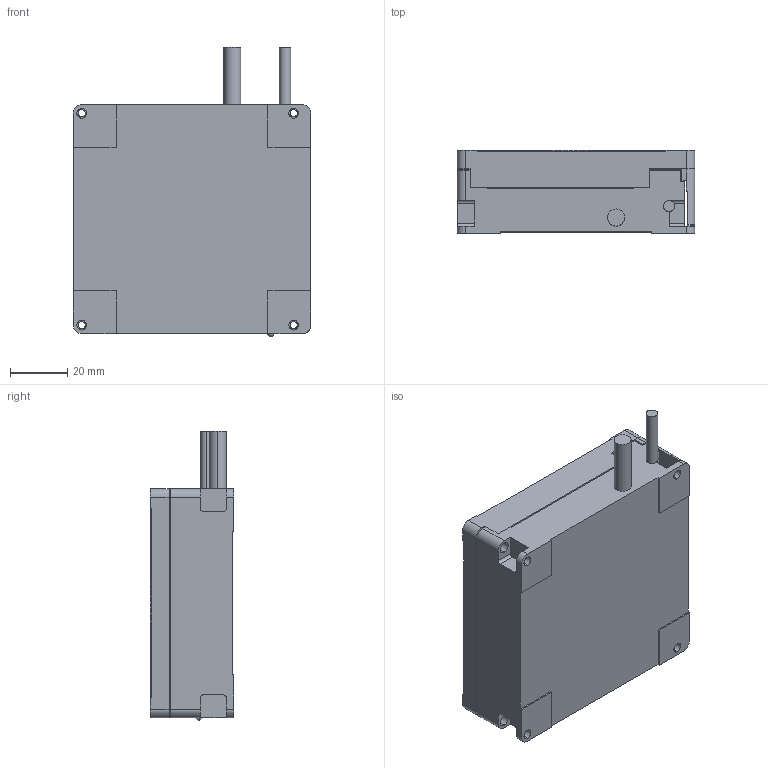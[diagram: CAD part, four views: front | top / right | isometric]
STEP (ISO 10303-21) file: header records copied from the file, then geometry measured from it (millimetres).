
FILE_DESCRIPTION (( 'STEP AP203' ), '1' );
FILE_NAME ('FML80-20Íâ·¢.STEP', '2021-08-03T08:12:10', ( '' ), ( '' ), 'SwSTEP 2.0', 'SolidWorks 2016', '' );
FILE_SCHEMA (( 'CONFIG_CONTROL_DESIGN' ));
Length unit declared in the file: millimetre
Products named in the file (4): FML80-20-02V1.0賑怢; FML80-20-01V1.0菁釱; FML80-20-03V1.0嫖掑喜假蚾啣; FML80-20俋楷
Assembly tree (3 placements, depth 2):
  FML80-20俋楷
    FML80-20-01V1.0菁釱
    FML80-20-02V1.0賑怢
    FML80-20-03V1.0嫖掑喜假蚾啣
Bounding box: 83 x 29 x 101 mm (x, y, z)
Volume: 181458.1 mm3; surface area: 43355.9 mm2
Topology: 3 solids, 3 shells, 164 faces, 466 edges, 302 vertices
Faces by surface type: plane 85, cylinder 69, cone 8, sphere 2
Entity records: 5738 total; most frequent: DIRECTION 948, CARTESIAN_POINT 924, ORIENTED_EDGE 908, EDGE_CURVE 454, AXIS2_PLACEMENT_3D 324, LINE 300, VERTEX_POINT 300, VECTOR 300
